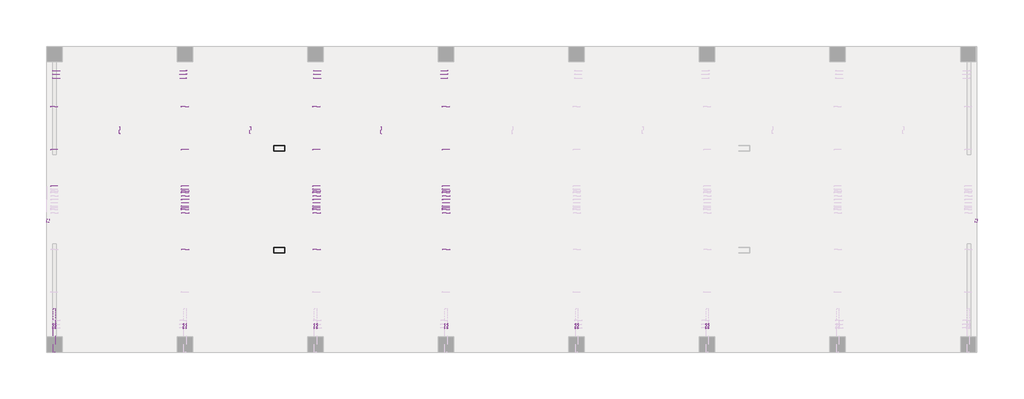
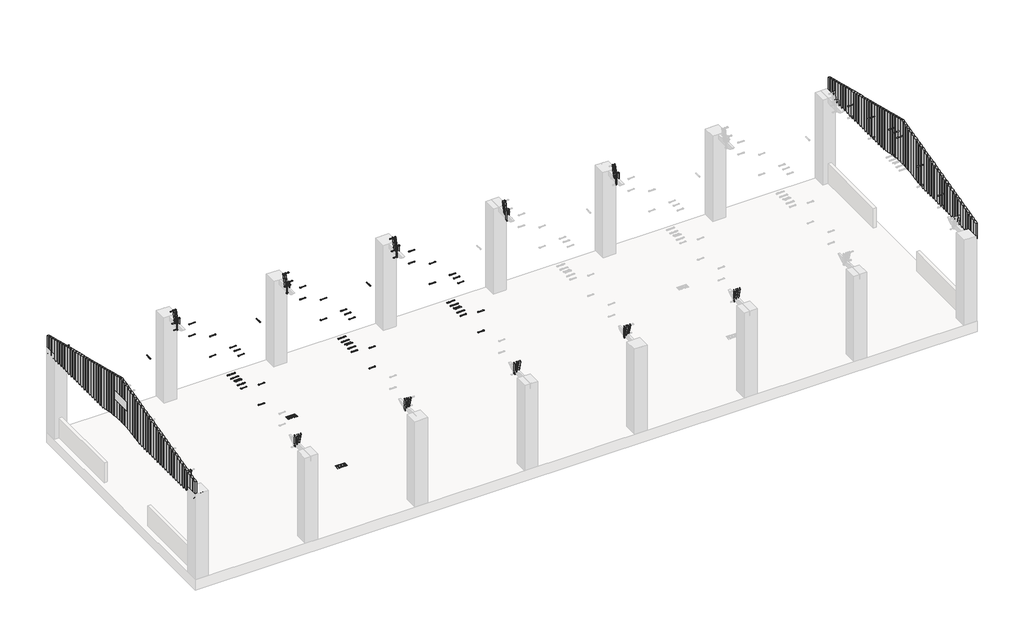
# One storey, part 2 of 3: 95 proxies.
"""IFC4 building model written with IfcOpenShell, lengths in millimetres."""

from ifc_helpers import new_model, si_unit, origin, place, context, project, spatial, transform, mapped, element, save
from components import generic_models_d6b20abb, generic_models_3d0c03d0, generic_models_80af4aff, generic_models_fae53533, generic_models_0523bc30, generic_models_f7b39308, generic_models_5e7460bb, generic_models_d5e312a7, generic_models_636f55b5, generic_models_6915e534, generic_models_3e0b4051, generic_models_b6f59ebe, generic_models_126143ee, generic_models_9c89c931, generic_models_0971f96f, generic_models_656b8d18, generic_models_129ac0f9

model = new_model("IFC4")

# Units and contexts
model_context = context("Model", 3, world=origin())
ifc_project = project(units=[si_unit("LENGTHUNIT", "METRE", prefix="MILLI")], contexts=[model_context])

# Site, building, storey
site = spatial("IfcSite", under=ifc_project)
building = spatial("IfcBuilding", under=site)
storey = spatial("IfcBuildingStorey", under=building, Name="Nível 1", Elevation=0.0)

# Proxies
placement = place(None, origin())
generic_models_shape = generic_models_d6b20abb(model_context)
element("IfcBuildingElementProxy", 1, Name="Modelos genéricos 2 : Modelos genéricos 2", ObjectType="Modelos genéricos 2 : Modelos genéricos 2", at=placement, inside=storey, context=model_context, shape_type="MappedRepresentation", body=[
    mapped(generic_models_shape, transform((0.0, 0.0, 0.0), x_axis=(1.0, 0.0, 0.0), y_axis=(0.0, 1.0, 0.0), z_axis=(0.0, 0.0, 1.0))),
])
generic_models_2_shape = generic_models_3d0c03d0(model_context)
element("IfcBuildingElementProxy", 2, Name="Modelos genéricos 225 : Modelos genéricos 225", ObjectType="Modelos genéricos 225 : Modelos genéricos 225", at=placement, inside=storey, context=model_context, shape_type="MappedRepresentation", body=[
    mapped(generic_models_2_shape, transform((0.0, 0.0, 0.0), x_axis=(1.0, 0.0, 0.0), y_axis=(0.0, 1.0, 0.0), z_axis=(0.0, 0.0, 1.0))),
])
generic_models_3_shape = generic_models_80af4aff(model_context)
element("IfcBuildingElementProxy", 3, Name="Modelos genéricos 226 : Modelos genéricos 225", ObjectType="Modelos genéricos 226 : Modelos genéricos 225", at=placement, inside=storey, context=model_context, shape_type="MappedRepresentation", body=[
    mapped(generic_models_3_shape, transform((0.0, 0.0, 0.0), x_axis=(1.0, 0.0, 0.0), y_axis=(0.0, 1.0, 0.0), z_axis=(0.0, 0.0, 1.0))),
])
generic_models_4_shape = generic_models_fae53533(model_context)
element("IfcBuildingElementProxy", 4, Name="grelha p chuva : grelha p chuva", ObjectType="grelha p chuva : grelha p chuva", at=placement, inside=storey, context=model_context, shape_type="MappedRepresentation", body=[
    mapped(generic_models_4_shape, transform((-6356.5527533, 3375.2904832, 0.0), x_axis=(0.0, 1.0, 0.0), y_axis=(-1.0, 0.0, 0.0), z_axis=(0.0, 0.0, 1.0))),
])
element("IfcBuildingElementProxy", 5, Name="grelha p chuva : grelha p chuva", ObjectType="grelha p chuva : grelha p chuva", at=placement, inside=storey, context=model_context, shape_type="MappedRepresentation", body=[
    mapped(generic_models_4_shape, transform((-6356.5527533, 521.9571498, 0.0), x_axis=(0.0, 1.0, 0.0), y_axis=(-1.0, 0.0, 0.0), z_axis=(0.0, 0.0, 1.0))),
])
generic_models_5_shape = generic_models_0523bc30(model_context)
element("IfcBuildingElementProxy", 6, Name="Modelos genéricos 278 : Modelos genéricos 278", ObjectType="Modelos genéricos 278 : Modelos genéricos 278", at=placement, inside=storey, context=model_context, shape_type="MappedRepresentation", body=[
    mapped(generic_models_5_shape, transform((0.0, 0.0, 0.0), x_axis=(1.0, 0.0, 0.0), y_axis=(0.0, 1.0, 0.0), z_axis=(0.0, 0.0, 1.0))),
])
generic_models_6_shape = generic_models_f7b39308(model_context)
element("IfcBuildingElementProxy", 7, Name="Modelos genéricos 279 : Modelos genéricos 278", ObjectType="Modelos genéricos 279 : Modelos genéricos 278", at=placement, inside=storey, context=model_context, shape_type="MappedRepresentation", body=[
    mapped(generic_models_6_shape, transform((0.0, 0.0, 0.0), x_axis=(1.0, 0.0, 0.0), y_axis=(0.0, 1.0, 0.0), z_axis=(0.0, 0.0, 1.0))),
])
generic_models_7_shape = generic_models_5e7460bb(model_context)
element("IfcBuildingElementProxy", 8, Name="Modelos genéricos 280 : Modelos genéricos 278", ObjectType="Modelos genéricos 280 : Modelos genéricos 278", at=placement, inside=storey, context=model_context, shape_type="MappedRepresentation", body=[
    mapped(generic_models_7_shape, transform((0.0, 0.0, 0.0), x_axis=(1.0, 0.0, 0.0), y_axis=(0.0, 1.0, 0.0), z_axis=(0.0, 0.0, 1.0))),
])
generic_models_8_shape = generic_models_d5e312a7(model_context)
element("IfcBuildingElementProxy", 9, Name="Modelos genéricos 281 : Modelos genéricos 278", ObjectType="Modelos genéricos 281 : Modelos genéricos 278", at=placement, inside=storey, context=model_context, shape_type="MappedRepresentation", body=[
    mapped(generic_models_8_shape, transform((0.0, 0.0, 0.0), x_axis=(1.0, 0.0, 0.0), y_axis=(0.0, 1.0, 0.0), z_axis=(0.0, 0.0, 1.0))),
])
generic_models_9_shape = generic_models_636f55b5(model_context)
element("IfcBuildingElementProxy", 10, Name="Modelos genéricos 282 : Modelos genéricos 278", ObjectType="Modelos genéricos 282 : Modelos genéricos 278", at=placement, inside=storey, context=model_context, shape_type="MappedRepresentation", body=[
    mapped(generic_models_9_shape, transform((0.0, 0.0, 0.0), x_axis=(1.0, 0.0, 0.0), y_axis=(0.0, 1.0, 0.0), z_axis=(0.0, 0.0, 1.0))),
])
generic_models_10_shape = generic_models_6915e534(model_context)
element("IfcBuildingElementProxy", 11, Name="Modelos genéricos 283 : Modelos genéricos 278", ObjectType="Modelos genéricos 283 : Modelos genéricos 278", at=placement, inside=storey, context=model_context, shape_type="MappedRepresentation", body=[
    mapped(generic_models_10_shape, transform((0.0, 0.0, 0.0), x_axis=(1.0, 0.0, 0.0), y_axis=(0.0, 1.0, 0.0), z_axis=(0.0, 0.0, 1.0))),
])
generic_models_11_shape = generic_models_3e0b4051(model_context)
element("IfcBuildingElementProxy", 12, Name="Modelos genéricos 284 : Modelos genéricos 278", ObjectType="Modelos genéricos 284 : Modelos genéricos 278", at=placement, inside=storey, context=model_context, shape_type="MappedRepresentation", body=[
    mapped(generic_models_11_shape, transform((0.0, 0.0, 0.0), x_axis=(1.0, 0.0, 0.0), y_axis=(0.0, 1.0, 0.0), z_axis=(0.0, 0.0, 1.0))),
])
generic_models_12_shape = generic_models_b6f59ebe(model_context)
element("IfcBuildingElementProxy", 13, Name="Modelos genéricos 285 : Modelos genéricos 278", ObjectType="Modelos genéricos 285 : Modelos genéricos 278", at=placement, inside=storey, context=model_context, shape_type="MappedRepresentation", body=[
    mapped(generic_models_12_shape, transform((0.0, 0.0, 0.0), x_axis=(1.0, 0.0, 0.0), y_axis=(0.0, 1.0, 0.0), z_axis=(0.0, 0.0, 1.0))),
])
generic_models_13_shape = generic_models_126143ee(model_context)
element("IfcBuildingElementProxy", 14, Name="Modelos genéricos 286 : Modelos genéricos 278", ObjectType="Modelos genéricos 286 : Modelos genéricos 278", at=placement, inside=storey, context=model_context, shape_type="MappedRepresentation", body=[
    mapped(generic_models_13_shape, transform((0.0, 0.0, 0.0), x_axis=(1.0, 0.0, 0.0), y_axis=(0.0, 1.0, 0.0), z_axis=(0.0, 0.0, 1.0))),
])
generic_models_14_shape = generic_models_9c89c931(model_context)
element("IfcBuildingElementProxy", 15, Name="Modelos genéricos 287 : Modelos genéricos 278", ObjectType="Modelos genéricos 287 : Modelos genéricos 278", at=placement, inside=storey, context=model_context, shape_type="MappedRepresentation", body=[
    mapped(generic_models_14_shape, transform((0.0, 0.0, 0.0), x_axis=(1.0, 0.0, 0.0), y_axis=(0.0, 1.0, 0.0), z_axis=(0.0, 0.0, 1.0))),
])
generic_models_15_shape = generic_models_0971f96f(model_context)
element("IfcBuildingElementProxy", 16, Name="Modelos genéricos 288 : Modelos genéricos 278", ObjectType="Modelos genéricos 288 : Modelos genéricos 278", at=placement, inside=storey, context=model_context, shape_type="MappedRepresentation", body=[
    mapped(generic_models_15_shape, transform((0.0, 0.0, 0.0), x_axis=(1.0, 0.0, 0.0), y_axis=(0.0, 1.0, 0.0), z_axis=(0.0, 0.0, 1.0))),
])
generic_models_16_shape = generic_models_656b8d18(model_context)
element("IfcBuildingElementProxy", 17, Name="Modelos genéricos 289 : Modelos genéricos 278", ObjectType="Modelos genéricos 289 : Modelos genéricos 278", at=placement, inside=storey, context=model_context, shape_type="MappedRepresentation", body=[
    mapped(generic_models_16_shape, transform((0.0, 0.0, 0.0), x_axis=(1.0, 0.0, 0.0), y_axis=(0.0, 1.0, 0.0), z_axis=(0.0, 0.0, 1.0))),
])
generic_models_17_shape = generic_models_129ac0f9(model_context)
element("IfcBuildingElementProxy", 18, Name="parafuso : parafuso", ObjectType="parafuso : parafuso", at=placement, inside=storey, context=model_context, shape_type="MappedRepresentation", body=[
    mapped(generic_models_17_shape, transform((-12736.5527533, 2328.6238165, 3040.0), x_axis=(0.0, 1.0, 0.0), y_axis=(0.0, 0.0, -1.0), z_axis=(-1.0, 0.0, 0.0))),
])
element("IfcBuildingElementProxy", 19, Name="parafuso : parafuso", ObjectType="parafuso : parafuso", at=placement, inside=storey, context=model_context, shape_type="MappedRepresentation", body=[
    mapped(generic_models_17_shape, transform((-9086.5527533, 1948.6238165, 4129.7515316), x_axis=(0.0, 1.0, 0.0), y_axis=(0.0, 0.0, -1.0), z_axis=(-1.0, 0.0, 0.0))),
])
element("IfcBuildingElementProxy", 20, Name="parafuso : parafuso", ObjectType="parafuso : parafuso", at=placement, inside=storey, context=model_context, shape_type="MappedRepresentation", body=[
    mapped(generic_models_17_shape, transform((-9086.5527533, 2183.6238165, 4104.7515316), x_axis=(0.0, 1.0, 0.0), y_axis=(0.0, 0.0, -1.0), z_axis=(-1.0, 0.0, 0.0))),
])
element("IfcBuildingElementProxy", 21, Name="parafuso : parafuso", ObjectType="parafuso : parafuso", at=placement, inside=storey, context=model_context, shape_type="MappedRepresentation", body=[
    mapped(generic_models_17_shape, transform((-9086.5527533, 1713.6238165, 4104.7515316), x_axis=(0.0, 1.0, 0.0), y_axis=(0.0, 0.0, -1.0), z_axis=(-1.0, 0.0, 0.0))),
])
element("IfcBuildingElementProxy", 22, Name="parafuso : parafuso", ObjectType="parafuso : parafuso", at=placement, inside=storey, context=model_context, shape_type="MappedRepresentation", body=[
    mapped(generic_models_17_shape, transform((-9086.5527533, 1948.6238165, 3080.0), x_axis=(0.0, 1.0, 0.0), y_axis=(0.0, 0.0, -1.0), z_axis=(-1.0, 0.0, 0.0))),
])
element("IfcBuildingElementProxy", 23, Name="parafuso : parafuso", ObjectType="parafuso : parafuso", at=placement, inside=storey, context=model_context, shape_type="MappedRepresentation", body=[
    mapped(generic_models_17_shape, transform((-9086.5527533, 2043.6238165, 3120.0), x_axis=(0.0, 1.0, 0.0), y_axis=(0.0, 0.0, -1.0), z_axis=(-1.0, 0.0, 0.0))),
])
element("IfcBuildingElementProxy", 24, Name="parafuso : parafuso", ObjectType="parafuso : parafuso", at=placement, inside=storey, context=model_context, shape_type="MappedRepresentation", body=[
    mapped(generic_models_17_shape, transform((-9086.5527533, 2138.6238165, 3040.0), x_axis=(0.0, 1.0, 0.0), y_axis=(0.0, 0.0, -1.0), z_axis=(-1.0, 0.0, 0.0))),
])
element("IfcBuildingElementProxy", 25, Name="parafuso : parafuso", ObjectType="parafuso : parafuso", at=placement, inside=storey, context=model_context, shape_type="MappedRepresentation", body=[
    mapped(generic_models_17_shape, transform((-9086.5527533, 2233.6238165, 3120.0), x_axis=(0.0, 1.0, 0.0), y_axis=(0.0, 0.0, -1.0), z_axis=(-1.0, 0.0, 0.0))),
])
element("IfcBuildingElementProxy", 26, Name="parafuso : parafuso", ObjectType="parafuso : parafuso", at=placement, inside=storey, context=model_context, shape_type="MappedRepresentation", body=[
    mapped(generic_models_17_shape, transform((-9086.5527533, 2328.6238165, 3040.0), x_axis=(0.0, 1.0, 0.0), y_axis=(0.0, 0.0, -1.0), z_axis=(-1.0, 0.0, 0.0))),
])
element("IfcBuildingElementProxy", 27, Name="parafuso : parafuso", ObjectType="parafuso : parafuso", at=placement, inside=storey, context=model_context, shape_type="MappedRepresentation", body=[
    mapped(generic_models_17_shape, transform((-9086.5527533, 1853.6238165, 3120.0), x_axis=(0.0, 1.0, 0.0), y_axis=(0.0, 0.0, -1.0), z_axis=(-1.0, 0.0, 0.0))),
])
element("IfcBuildingElementProxy", 28, Name="parafuso : parafuso", ObjectType="parafuso : parafuso", at=placement, inside=storey, context=model_context, shape_type="MappedRepresentation", body=[
    mapped(generic_models_17_shape, transform((-9086.5527533, 1758.6238165, 3040.0), x_axis=(0.0, 1.0, 0.0), y_axis=(0.0, 0.0, -1.0), z_axis=(-1.0, 0.0, 0.0))),
])
element("IfcBuildingElementProxy", 29, Name="parafuso : parafuso", ObjectType="parafuso : parafuso", at=placement, inside=storey, context=model_context, shape_type="MappedRepresentation", body=[
    mapped(generic_models_17_shape, transform((-9086.5527533, 1663.6238165, 3120.0), x_axis=(0.0, 1.0, 0.0), y_axis=(0.0, 0.0, -1.0), z_axis=(-1.0, 0.0, 0.0))),
])
element("IfcBuildingElementProxy", 30, Name="parafuso : parafuso", ObjectType="parafuso : parafuso", at=placement, inside=storey, context=model_context, shape_type="MappedRepresentation", body=[
    mapped(generic_models_17_shape, transform((-9086.5527533, 1568.6238165, 3040.0), x_axis=(0.0, 1.0, 0.0), y_axis=(0.0, 0.0, -1.0), z_axis=(-1.0, 0.0, 0.0))),
])
element("IfcBuildingElementProxy", 31, Name="parafuso : parafuso", ObjectType="parafuso : parafuso", at=placement, inside=storey, context=model_context, shape_type="MappedRepresentation", body=[
    mapped(generic_models_17_shape, transform((-9086.5527533, 548.6238165, 3795.6961975), x_axis=(0.0, 1.0, 0.0), y_axis=(0.0, 0.0, -1.0), z_axis=(-1.0, 0.0, 0.0))),
])
element("IfcBuildingElementProxy", 32, Name="parafuso : parafuso", ObjectType="parafuso : parafuso", at=placement, inside=storey, context=model_context, shape_type="MappedRepresentation", body=[
    mapped(generic_models_17_shape, transform((-9086.5527533, 548.6238165, 3080.0), x_axis=(0.0, 1.0, 0.0), y_axis=(0.0, 0.0, -1.0), z_axis=(-1.0, 0.0, 0.0))),
])
element("IfcBuildingElementProxy", 33, Name="parafuso : parafuso", ObjectType="parafuso : parafuso", at=placement, inside=storey, context=model_context, shape_type="MappedRepresentation", body=[
    mapped(generic_models_17_shape, transform((-5406.5419071, 1948.6238165, 4129.7515316), x_axis=(0.0, 1.0, 0.0), y_axis=(0.0, 0.0, -1.0), z_axis=(-1.0, 0.0, 0.0))),
])
element("IfcBuildingElementProxy", 34, Name="parafuso : parafuso", ObjectType="parafuso : parafuso", at=placement, inside=storey, context=model_context, shape_type="MappedRepresentation", body=[
    mapped(generic_models_17_shape, transform((-5406.5419071, 2183.6238165, 4104.7515316), x_axis=(0.0, 1.0, 0.0), y_axis=(0.0, 0.0, -1.0), z_axis=(-1.0, 0.0, 0.0))),
])
element("IfcBuildingElementProxy", 35, Name="parafuso : parafuso", ObjectType="parafuso : parafuso", at=placement, inside=storey, context=model_context, shape_type="MappedRepresentation", body=[
    mapped(generic_models_17_shape, transform((-5406.5419071, 1713.6238165, 4104.7515316), x_axis=(0.0, 1.0, 0.0), y_axis=(0.0, 0.0, -1.0), z_axis=(-1.0, 0.0, 0.0))),
])
element("IfcBuildingElementProxy", 36, Name="parafuso : parafuso", ObjectType="parafuso : parafuso", at=placement, inside=storey, context=model_context, shape_type="MappedRepresentation", body=[
    mapped(generic_models_17_shape, transform((-5406.5419071, 1948.6238165, 3080.0), x_axis=(0.0, 1.0, 0.0), y_axis=(0.0, 0.0, -1.0), z_axis=(-1.0, 0.0, 0.0))),
])
element("IfcBuildingElementProxy", 37, Name="parafuso : parafuso", ObjectType="parafuso : parafuso", at=placement, inside=storey, context=model_context, shape_type="MappedRepresentation", body=[
    mapped(generic_models_17_shape, transform((-5406.5419071, 2043.6238165, 3120.0), x_axis=(0.0, 1.0, 0.0), y_axis=(0.0, 0.0, -1.0), z_axis=(-1.0, 0.0, 0.0))),
])
element("IfcBuildingElementProxy", 38, Name="parafuso : parafuso", ObjectType="parafuso : parafuso", at=placement, inside=storey, context=model_context, shape_type="MappedRepresentation", body=[
    mapped(generic_models_17_shape, transform((-5406.5419071, 2138.6238165, 3040.0), x_axis=(0.0, 1.0, 0.0), y_axis=(0.0, 0.0, -1.0), z_axis=(-1.0, 0.0, 0.0))),
])
element("IfcBuildingElementProxy", 39, Name="parafuso : parafuso", ObjectType="parafuso : parafuso", at=placement, inside=storey, context=model_context, shape_type="MappedRepresentation", body=[
    mapped(generic_models_17_shape, transform((-5406.5419071, 2233.6238165, 3120.0), x_axis=(0.0, 1.0, 0.0), y_axis=(0.0, 0.0, -1.0), z_axis=(-1.0, 0.0, 0.0))),
])
element("IfcBuildingElementProxy", 40, Name="parafuso : parafuso", ObjectType="parafuso : parafuso", at=placement, inside=storey, context=model_context, shape_type="MappedRepresentation", body=[
    mapped(generic_models_17_shape, transform((-5406.5419071, 2328.6238165, 3040.0), x_axis=(0.0, 1.0, 0.0), y_axis=(0.0, 0.0, -1.0), z_axis=(-1.0, 0.0, 0.0))),
])
element("IfcBuildingElementProxy", 41, Name="parafuso : parafuso", ObjectType="parafuso : parafuso", at=placement, inside=storey, context=model_context, shape_type="MappedRepresentation", body=[
    mapped(generic_models_17_shape, transform((-5406.5419071, 1853.6238165, 3120.0), x_axis=(0.0, 1.0, 0.0), y_axis=(0.0, 0.0, -1.0), z_axis=(-1.0, 0.0, 0.0))),
])
element("IfcBuildingElementProxy", 42, Name="parafuso : parafuso", ObjectType="parafuso : parafuso", at=placement, inside=storey, context=model_context, shape_type="MappedRepresentation", body=[
    mapped(generic_models_17_shape, transform((-5406.5419071, 1758.6238165, 3040.0), x_axis=(0.0, 1.0, 0.0), y_axis=(0.0, 0.0, -1.0), z_axis=(-1.0, 0.0, 0.0))),
])
element("IfcBuildingElementProxy", 43, Name="parafuso : parafuso", ObjectType="parafuso : parafuso", at=placement, inside=storey, context=model_context, shape_type="MappedRepresentation", body=[
    mapped(generic_models_17_shape, transform((-5406.5419071, 1663.6238165, 3120.0), x_axis=(0.0, 1.0, 0.0), y_axis=(0.0, 0.0, -1.0), z_axis=(-1.0, 0.0, 0.0))),
])
element("IfcBuildingElementProxy", 44, Name="parafuso : parafuso", ObjectType="parafuso : parafuso", at=placement, inside=storey, context=model_context, shape_type="MappedRepresentation", body=[
    mapped(generic_models_17_shape, transform((-5406.5419071, 1568.6238165, 3040.0), x_axis=(0.0, 1.0, 0.0), y_axis=(0.0, 0.0, -1.0), z_axis=(-1.0, 0.0, 0.0))),
])
element("IfcBuildingElementProxy", 45, Name="parafuso : parafuso", ObjectType="parafuso : parafuso", at=placement, inside=storey, context=model_context, shape_type="MappedRepresentation", body=[
    mapped(generic_models_17_shape, transform((-5406.5419071, 548.6238165, 3795.6961975), x_axis=(0.0, 1.0, 0.0), y_axis=(0.0, 0.0, -1.0), z_axis=(-1.0, 0.0, 0.0))),
])
element("IfcBuildingElementProxy", 46, Name="parafuso : parafuso", ObjectType="parafuso : parafuso", at=placement, inside=storey, context=model_context, shape_type="MappedRepresentation", body=[
    mapped(generic_models_17_shape, transform((-5406.5419071, 548.6238165, 3080.0), x_axis=(0.0, 1.0, 0.0), y_axis=(0.0, 0.0, -1.0), z_axis=(-1.0, 0.0, 0.0))),
])
element("IfcBuildingElementProxy", 47, Name="parafuso : parafuso", ObjectType="parafuso : parafuso", at=placement, inside=storey, context=model_context, shape_type="MappedRepresentation", body=[
    mapped(generic_models_17_shape, transform((-1786.5527533, 1948.6238165, 4129.7515316), x_axis=(0.0, 1.0, 0.0), y_axis=(0.0, 0.0, -1.0), z_axis=(-1.0, 0.0, 0.0))),
])
element("IfcBuildingElementProxy", 48, Name="parafuso : parafuso", ObjectType="parafuso : parafuso", at=placement, inside=storey, context=model_context, shape_type="MappedRepresentation", body=[
    mapped(generic_models_17_shape, transform((-1786.5527533, 2183.6238165, 4104.7515316), x_axis=(0.0, 1.0, 0.0), y_axis=(0.0, 0.0, -1.0), z_axis=(-1.0, 0.0, 0.0))),
])
element("IfcBuildingElementProxy", 49, Name="parafuso : parafuso", ObjectType="parafuso : parafuso", at=placement, inside=storey, context=model_context, shape_type="MappedRepresentation", body=[
    mapped(generic_models_17_shape, transform((-1786.5527533, 1713.6238165, 4104.7515316), x_axis=(0.0, 1.0, 0.0), y_axis=(0.0, 0.0, -1.0), z_axis=(-1.0, 0.0, 0.0))),
])
element("IfcBuildingElementProxy", 50, Name="parafuso : parafuso", ObjectType="parafuso : parafuso", at=placement, inside=storey, context=model_context, shape_type="MappedRepresentation", body=[
    mapped(generic_models_17_shape, transform((-1786.5527533, 1948.6238165, 3080.0), x_axis=(0.0, 1.0, 0.0), y_axis=(0.0, 0.0, -1.0), z_axis=(-1.0, 0.0, 0.0))),
])
element("IfcBuildingElementProxy", 51, Name="parafuso : parafuso", ObjectType="parafuso : parafuso", at=placement, inside=storey, context=model_context, shape_type="MappedRepresentation", body=[
    mapped(generic_models_17_shape, transform((-1786.5527533, 2043.6238165, 3120.0), x_axis=(0.0, 1.0, 0.0), y_axis=(0.0, 0.0, -1.0), z_axis=(-1.0, 0.0, 0.0))),
])
element("IfcBuildingElementProxy", 52, Name="parafuso : parafuso", ObjectType="parafuso : parafuso", at=placement, inside=storey, context=model_context, shape_type="MappedRepresentation", body=[
    mapped(generic_models_17_shape, transform((-1786.5527533, 2138.6238165, 3040.0), x_axis=(0.0, 1.0, 0.0), y_axis=(0.0, 0.0, -1.0), z_axis=(-1.0, 0.0, 0.0))),
])
element("IfcBuildingElementProxy", 53, Name="parafuso : parafuso", ObjectType="parafuso : parafuso", at=placement, inside=storey, context=model_context, shape_type="MappedRepresentation", body=[
    mapped(generic_models_17_shape, transform((-1786.5527533, 2233.6238165, 3120.0), x_axis=(0.0, 1.0, 0.0), y_axis=(0.0, 0.0, -1.0), z_axis=(-1.0, 0.0, 0.0))),
])
element("IfcBuildingElementProxy", 54, Name="parafuso : parafuso", ObjectType="parafuso : parafuso", at=placement, inside=storey, context=model_context, shape_type="MappedRepresentation", body=[
    mapped(generic_models_17_shape, transform((-1786.5527533, 2328.6238165, 3040.0), x_axis=(0.0, 1.0, 0.0), y_axis=(0.0, 0.0, -1.0), z_axis=(-1.0, 0.0, 0.0))),
])
element("IfcBuildingElementProxy", 55, Name="parafuso : parafuso", ObjectType="parafuso : parafuso", at=placement, inside=storey, context=model_context, shape_type="MappedRepresentation", body=[
    mapped(generic_models_17_shape, transform((-1786.5527533, 1853.6238165, 3120.0), x_axis=(0.0, 1.0, 0.0), y_axis=(0.0, 0.0, -1.0), z_axis=(-1.0, 0.0, 0.0))),
])
element("IfcBuildingElementProxy", 56, Name="parafuso : parafuso", ObjectType="parafuso : parafuso", at=placement, inside=storey, context=model_context, shape_type="MappedRepresentation", body=[
    mapped(generic_models_17_shape, transform((-1786.5527533, 1758.6238165, 3040.0), x_axis=(0.0, 1.0, 0.0), y_axis=(0.0, 0.0, -1.0), z_axis=(-1.0, 0.0, 0.0))),
])
element("IfcBuildingElementProxy", 57, Name="parafuso : parafuso", ObjectType="parafuso : parafuso", at=placement, inside=storey, context=model_context, shape_type="MappedRepresentation", body=[
    mapped(generic_models_17_shape, transform((-1786.5527533, 1663.6238165, 3120.0), x_axis=(0.0, 1.0, 0.0), y_axis=(0.0, 0.0, -1.0), z_axis=(-1.0, 0.0, 0.0))),
])
element("IfcBuildingElementProxy", 58, Name="parafuso : parafuso", ObjectType="parafuso : parafuso", at=placement, inside=storey, context=model_context, shape_type="MappedRepresentation", body=[
    mapped(generic_models_17_shape, transform((-1786.5527533, 1568.6238165, 3040.0), x_axis=(0.0, 1.0, 0.0), y_axis=(0.0, 0.0, -1.0), z_axis=(-1.0, 0.0, 0.0))),
])
element("IfcBuildingElementProxy", 59, Name="parafuso : parafuso", ObjectType="parafuso : parafuso", at=placement, inside=storey, context=model_context, shape_type="MappedRepresentation", body=[
    mapped(generic_models_17_shape, transform((-1786.5527533, 548.6238165, 3795.6961975), x_axis=(0.0, 1.0, 0.0), y_axis=(0.0, 0.0, -1.0), z_axis=(-1.0, 0.0, 0.0))),
])
element("IfcBuildingElementProxy", 60, Name="parafuso : parafuso", ObjectType="parafuso : parafuso", at=placement, inside=storey, context=model_context, shape_type="MappedRepresentation", body=[
    mapped(generic_models_17_shape, transform((-1786.5527533, 548.6238165, 3080.0), x_axis=(0.0, 1.0, 0.0), y_axis=(0.0, 0.0, -1.0), z_axis=(-1.0, 0.0, 0.0))),
])
element("IfcBuildingElementProxy", 61, Name="parafuso : parafuso", ObjectType="parafuso : parafuso", at=placement, inside=storey, context=model_context, shape_type="MappedRepresentation", body=[
    mapped(generic_models_17_shape, transform((-12689.2419071, 5338.6238165, 2820.0), x_axis=(0.0, 1.0, 0.0), y_axis=(0.0, 0.0, -1.0), z_axis=(-1.0, 0.0, 0.0))),
])
element("IfcBuildingElementProxy", 62, Name="parafuso : parafuso", ObjectType="parafuso : parafuso", at=placement, inside=storey, context=model_context, shape_type="MappedRepresentation", body=[
    mapped(generic_models_17_shape, transform((-12689.2419071, 5338.6238165, 3180.0), x_axis=(0.0, 1.0, 0.0), y_axis=(0.0, 0.0, -1.0), z_axis=(-1.0, 0.0, 0.0))),
])
element("IfcBuildingElementProxy", 63, Name="parafuso : parafuso", ObjectType="parafuso : parafuso", at=placement, inside=storey, context=model_context, shape_type="MappedRepresentation", body=[
    mapped(generic_models_17_shape, transform((-12689.2419071, 5547.636896, 3347.7358864), x_axis=(0.0, 1.0, 0.0), y_axis=(0.0, 0.0, -1.0), z_axis=(-1.0, 0.0, 0.0))),
])
element("IfcBuildingElementProxy", 64, Name="parafuso : parafuso", ObjectType="parafuso : parafuso", at=placement, inside=storey, context=model_context, shape_type="MappedRepresentation", body=[
    mapped(generic_models_17_shape, transform((-12689.2419071, 5449.2856589, 2980.6840724), x_axis=(0.0, 1.0, 0.0), y_axis=(0.0, 0.0, -1.0), z_axis=(-1.0, 0.0, 0.0))),
])
element("IfcBuildingElementProxy", 65, Name="parafuso : parafuso", ObjectType="parafuso : parafuso", at=placement, inside=storey, context=model_context, shape_type="MappedRepresentation", body=[
    mapped(generic_models_17_shape, transform((-5389.2419071, 5338.6238165, 2820.0), x_axis=(0.0, 1.0, 0.0), y_axis=(0.0, 0.0, -1.0), z_axis=(-1.0, 0.0, 0.0))),
])
element("IfcBuildingElementProxy", 66, Name="parafuso : parafuso", ObjectType="parafuso : parafuso", at=placement, inside=storey, context=model_context, shape_type="MappedRepresentation", body=[
    mapped(generic_models_17_shape, transform((-5389.2419071, 5338.6238165, 3180.0), x_axis=(0.0, 1.0, 0.0), y_axis=(0.0, 0.0, -1.0), z_axis=(-1.0, 0.0, 0.0))),
])
element("IfcBuildingElementProxy", 67, Name="parafuso : parafuso", ObjectType="parafuso : parafuso", at=placement, inside=storey, context=model_context, shape_type="MappedRepresentation", body=[
    mapped(generic_models_17_shape, transform((-5389.2419071, 5547.636896, 3347.7358864), x_axis=(0.0, 1.0, 0.0), y_axis=(0.0, 0.0, -1.0), z_axis=(-1.0, 0.0, 0.0))),
])
element("IfcBuildingElementProxy", 68, Name="parafuso : parafuso", ObjectType="parafuso : parafuso", at=placement, inside=storey, context=model_context, shape_type="MappedRepresentation", body=[
    mapped(generic_models_17_shape, transform((-5389.2419071, 5449.2856589, 2980.6840724), x_axis=(0.0, 1.0, 0.0), y_axis=(0.0, 0.0, -1.0), z_axis=(-1.0, 0.0, 0.0))),
])
element("IfcBuildingElementProxy", 69, Name="parafuso : parafuso", ObjectType="parafuso : parafuso", at=placement, inside=storey, context=model_context, shape_type="MappedRepresentation", body=[
    mapped(generic_models_17_shape, transform((-10824.2673329, 3793.6238165, 3358.0232147), x_axis=(-0.9863131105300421, 0.0, -0.16488313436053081), y_axis=(0.16488313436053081, 0.0, -0.9863131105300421), z_axis=(0.0, -1.0, 0.0))),
])
element("IfcBuildingElementProxy", 70, Name="parafuso : parafuso", ObjectType="parafuso : parafuso", at=placement, inside=storey, context=model_context, shape_type="MappedRepresentation", body=[
    mapped(generic_models_17_shape, transform((-7169.1355941, 3793.6238165, 3361.2947884), x_axis=(-0.9863131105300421, 0.0, -0.16488313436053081), y_axis=(0.16488313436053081, 0.0, -0.9863131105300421), z_axis=(0.0, -1.0, 0.0))),
])
element("IfcBuildingElementProxy", 71, Name="parafuso : parafuso", ObjectType="parafuso : parafuso", at=placement, inside=storey, context=model_context, shape_type="MappedRepresentation", body=[
    mapped(generic_models_17_shape, transform((-3511.3460302, 3793.6238165, 3362.6833564), x_axis=(-0.9863131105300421, 0.0, -0.16488313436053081), y_axis=(0.16488313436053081, 0.0, -0.9863131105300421), z_axis=(0.0, -1.0, 0.0))),
])
element("IfcBuildingElementProxy", 72, Name="parafuso : parafuso", ObjectType="parafuso : parafuso", at=placement, inside=storey, context=model_context, shape_type="MappedRepresentation", body=[
    mapped(generic_models_17_shape, transform((-12736.5527533, 3348.6238165, 3795.6961975), x_axis=(0.0, -1.0, 0.0), y_axis=(0.0, 0.0, 1.0), z_axis=(-1.0, 0.0, 0.0))),
])
element("IfcBuildingElementProxy", 73, Name="parafuso : parafuso", ObjectType="parafuso : parafuso", at=placement, inside=storey, context=model_context, shape_type="MappedRepresentation", body=[
    mapped(generic_models_17_shape, transform((-12736.5527533, 4543.6238165, 3497.7492341), x_axis=(0.0, -1.0, 0.0), y_axis=(0.0, 0.0, 1.0), z_axis=(-1.0, 0.0, 0.0))),
])
element("IfcBuildingElementProxy", 74, Name="parafuso : parafuso", ObjectType="parafuso : parafuso", at=placement, inside=storey, context=model_context, shape_type="MappedRepresentation", body=[
    mapped(generic_models_17_shape, transform((-12736.5527533, 4543.6238165, 3080.0), x_axis=(0.0, -1.0, 0.0), y_axis=(0.0, 0.0, 1.0), z_axis=(-1.0, 0.0, 0.0))),
])
element("IfcBuildingElementProxy", 75, Name="parafuso : parafuso", ObjectType="parafuso : parafuso", at=placement, inside=storey, context=model_context, shape_type="MappedRepresentation", body=[
    mapped(generic_models_17_shape, transform((-12736.5527533, 3348.6238165, 3080.0), x_axis=(0.0, -1.0, 0.0), y_axis=(0.0, 0.0, 1.0), z_axis=(-1.0, 0.0, 0.0))),
])
element("IfcBuildingElementProxy", 76, Name="parafuso : parafuso", ObjectType="parafuso : parafuso", at=placement, inside=storey, context=model_context, shape_type="MappedRepresentation", body=[
    mapped(generic_models_17_shape, transform((-9086.5527533, 3348.6238165, 3795.6961975), x_axis=(0.0, -1.0, 0.0), y_axis=(0.0, 0.0, 1.0), z_axis=(-1.0, 0.0, 0.0))),
])
element("IfcBuildingElementProxy", 77, Name="parafuso : parafuso", ObjectType="parafuso : parafuso", at=placement, inside=storey, context=model_context, shape_type="MappedRepresentation", body=[
    mapped(generic_models_17_shape, transform((-9086.5527533, 4543.6238165, 3497.7492341), x_axis=(0.0, -1.0, 0.0), y_axis=(0.0, 0.0, 1.0), z_axis=(-1.0, 0.0, 0.0))),
])
element("IfcBuildingElementProxy", 78, Name="parafuso : parafuso", ObjectType="parafuso : parafuso", at=placement, inside=storey, context=model_context, shape_type="MappedRepresentation", body=[
    mapped(generic_models_17_shape, transform((-9086.5527533, 4543.6238165, 3080.0), x_axis=(0.0, -1.0, 0.0), y_axis=(0.0, 0.0, 1.0), z_axis=(-1.0, 0.0, 0.0))),
])
element("IfcBuildingElementProxy", 79, Name="parafuso : parafuso", ObjectType="parafuso : parafuso", at=placement, inside=storey, context=model_context, shape_type="MappedRepresentation", body=[
    mapped(generic_models_17_shape, transform((-9086.5527533, 3348.6238165, 3080.0), x_axis=(0.0, -1.0, 0.0), y_axis=(0.0, 0.0, 1.0), z_axis=(-1.0, 0.0, 0.0))),
])
element("IfcBuildingElementProxy", 80, Name="parafuso : parafuso", ObjectType="parafuso : parafuso", at=placement, inside=storey, context=model_context, shape_type="MappedRepresentation", body=[
    mapped(generic_models_17_shape, transform((-5406.5419071, 3348.6238165, 3795.6961975), x_axis=(0.0, -1.0, 0.0), y_axis=(0.0, 0.0, 1.0), z_axis=(-1.0, 0.0, 0.0))),
])
element("IfcBuildingElementProxy", 81, Name="parafuso : parafuso", ObjectType="parafuso : parafuso", at=placement, inside=storey, context=model_context, shape_type="MappedRepresentation", body=[
    mapped(generic_models_17_shape, transform((-5406.5419071, 4543.6238165, 3497.7492341), x_axis=(0.0, -1.0, 0.0), y_axis=(0.0, 0.0, 1.0), z_axis=(-1.0, 0.0, 0.0))),
])
element("IfcBuildingElementProxy", 82, Name="parafuso : parafuso", ObjectType="parafuso : parafuso", at=placement, inside=storey, context=model_context, shape_type="MappedRepresentation", body=[
    mapped(generic_models_17_shape, transform((-5406.5419071, 4543.6238165, 3080.0), x_axis=(0.0, -1.0, 0.0), y_axis=(0.0, 0.0, 1.0), z_axis=(-1.0, 0.0, 0.0))),
])
element("IfcBuildingElementProxy", 83, Name="parafuso : parafuso", ObjectType="parafuso : parafuso", at=placement, inside=storey, context=model_context, shape_type="MappedRepresentation", body=[
    mapped(generic_models_17_shape, transform((-5406.5419071, 3348.6238165, 3080.0), x_axis=(0.0, -1.0, 0.0), y_axis=(0.0, 0.0, 1.0), z_axis=(-1.0, 0.0, 0.0))),
])
element("IfcBuildingElementProxy", 84, Name="parafuso : parafuso", ObjectType="parafuso : parafuso", at=placement, inside=storey, context=model_context, shape_type="MappedRepresentation", body=[
    mapped(generic_models_17_shape, transform((-1786.5527533, 3348.6238165, 3795.6961975), x_axis=(0.0, -1.0, 0.0), y_axis=(0.0, 0.0, 1.0), z_axis=(-1.0, 0.0, 0.0))),
])
element("IfcBuildingElementProxy", 85, Name="parafuso : parafuso", ObjectType="parafuso : parafuso", at=placement, inside=storey, context=model_context, shape_type="MappedRepresentation", body=[
    mapped(generic_models_17_shape, transform((-1786.5527533, 4543.6238165, 3497.7492341), x_axis=(0.0, -1.0, 0.0), y_axis=(0.0, 0.0, 1.0), z_axis=(-1.0, 0.0, 0.0))),
])
element("IfcBuildingElementProxy", 86, Name="parafuso : parafuso", ObjectType="parafuso : parafuso", at=placement, inside=storey, context=model_context, shape_type="MappedRepresentation", body=[
    mapped(generic_models_17_shape, transform((-1786.5527533, 4543.6238165, 3080.0), x_axis=(0.0, -1.0, 0.0), y_axis=(0.0, 0.0, 1.0), z_axis=(-1.0, 0.0, 0.0))),
])
element("IfcBuildingElementProxy", 87, Name="parafuso : parafuso", ObjectType="parafuso : parafuso", at=placement, inside=storey, context=model_context, shape_type="MappedRepresentation", body=[
    mapped(generic_models_17_shape, transform((-1786.5527533, 3348.6238165, 3080.0), x_axis=(0.0, -1.0, 0.0), y_axis=(0.0, 0.0, 1.0), z_axis=(-1.0, 0.0, 0.0))),
])
element("IfcBuildingElementProxy", 88, Name="parafuso : parafuso", ObjectType="parafuso : parafuso", at=placement, inside=storey, context=model_context, shape_type="MappedRepresentation", body=[
    mapped(generic_models_17_shape, transform((-8953.8635995, 5338.6238165, 2820.0), x_axis=(0.0, 1.0, 0.0), y_axis=(0.0, 0.0, 1.0), z_axis=(1.0, 0.0, 0.0))),
])
element("IfcBuildingElementProxy", 89, Name="parafuso : parafuso", ObjectType="parafuso : parafuso", at=placement, inside=storey, context=model_context, shape_type="MappedRepresentation", body=[
    mapped(generic_models_17_shape, transform((-8953.8635995, 5338.6238165, 3180.0), x_axis=(0.0, 1.0, 0.0), y_axis=(0.0, 0.0, 1.0), z_axis=(1.0, 0.0, 0.0))),
])
element("IfcBuildingElementProxy", 90, Name="parafuso : parafuso", ObjectType="parafuso : parafuso", at=placement, inside=storey, context=model_context, shape_type="MappedRepresentation", body=[
    mapped(generic_models_17_shape, transform((-8953.8635995, 5547.636896, 3347.7358864), x_axis=(0.0, 1.0, 0.0), y_axis=(0.0, 0.0, 1.0), z_axis=(1.0, 0.0, 0.0))),
])
element("IfcBuildingElementProxy", 91, Name="parafuso : parafuso", ObjectType="parafuso : parafuso", at=placement, inside=storey, context=model_context, shape_type="MappedRepresentation", body=[
    mapped(generic_models_17_shape, transform((-8953.8635995, 5449.2856589, 2980.6840724), x_axis=(0.0, 1.0, 0.0), y_axis=(0.0, 0.0, 1.0), z_axis=(1.0, 0.0, 0.0))),
])
element("IfcBuildingElementProxy", 92, Name="parafuso : parafuso", ObjectType="parafuso : parafuso", at=placement, inside=storey, context=model_context, shape_type="MappedRepresentation", body=[
    mapped(generic_models_17_shape, transform((-1653.8635995, 5338.6238165, 2820.0), x_axis=(0.0, 1.0, 0.0), y_axis=(0.0, 0.0, 1.0), z_axis=(1.0, 0.0, 0.0))),
])
element("IfcBuildingElementProxy", 93, Name="parafuso : parafuso", ObjectType="parafuso : parafuso", at=placement, inside=storey, context=model_context, shape_type="MappedRepresentation", body=[
    mapped(generic_models_17_shape, transform((-1653.8635995, 5338.6238165, 3180.0), x_axis=(0.0, 1.0, 0.0), y_axis=(0.0, 0.0, 1.0), z_axis=(1.0, 0.0, 0.0))),
])
element("IfcBuildingElementProxy", 94, Name="parafuso : parafuso", ObjectType="parafuso : parafuso", at=placement, inside=storey, context=model_context, shape_type="MappedRepresentation", body=[
    mapped(generic_models_17_shape, transform((-1653.8635995, 5547.636896, 3347.7358864), x_axis=(0.0, 1.0, 0.0), y_axis=(0.0, 0.0, 1.0), z_axis=(1.0, 0.0, 0.0))),
])
element("IfcBuildingElementProxy", 95, Name="parafuso : parafuso", ObjectType="parafuso : parafuso", at=placement, inside=storey, context=model_context, shape_type="MappedRepresentation", body=[
    mapped(generic_models_17_shape, transform((-1653.8635995, 5449.2856589, 2980.6840724), x_axis=(0.0, 1.0, 0.0), y_axis=(0.0, 0.0, 1.0), z_axis=(1.0, 0.0, 0.0))),
])

save(model, "model.ifc")
